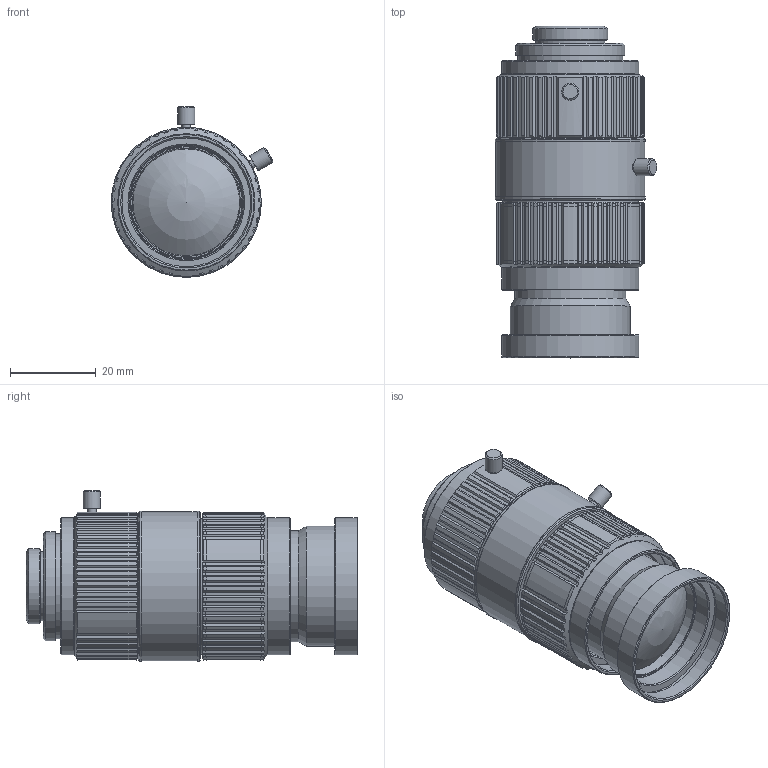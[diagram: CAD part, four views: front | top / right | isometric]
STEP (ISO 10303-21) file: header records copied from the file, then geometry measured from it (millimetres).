
FILE_DESCRIPTION(('LS-FFL-0029'),'2;1');
FILE_NAME('LS-FFL-0029.stp','2026-10-15T21:49:29',('LumaSpec Vision'),('LumaSpec Vision'),'LumaSpec Vision','LumaSpec Vision','');
FILE_SCHEMA(('AUTOMOTIVE_DESIGN { 1 0 10303 214 1 1 1 1 }'));
Length unit declared in the file: millimetre
Products named in the file (3): LS-FFL-0029
Assembly tree (2 placements, depth 2):
  LS-FFL-0029
    (unnamed)
    (unnamed)
Bounding box: 37.66 x 77.34 x 39.8 mm (x, y, z)
Volume: 99534.6 mm3; surface area: 25140.1 mm2
Topology: 2 solids, 2 shells, 941 faces, 2589 edges, 1713 vertices
Faces by surface type: plane 383, cylinder 356, cone 198, sphere 4
Full cylindrical faces by diameter (mm): 2 x4, 4 x4, 13.62 x2, 16 x2, 17 x2, 17.5 x2, 22.5 x2, 23 x2, 24.4 x2, 24.9 x2, 25.4 x2, 25.79 x1, 26.7 x2, 27.9 x2, 28.2 x1, 28.3 x2, 30 x2, 30.5 x4, 31.4 x2, 31.6 x2, 31.9 x2, 32 x6, 32.4 x2, 34.7 x2, 35 x4
Entity records: 65169 total; most frequent: CARTESIAN_POINT 17150, DIRECTION 7942, ORIENTED_EDGE 5170, PCURVE 5170, DEFINITIONAL_REPRESENTATION 5170, LINE 4179, VECTOR 4179, EDGE_CURVE 2585
